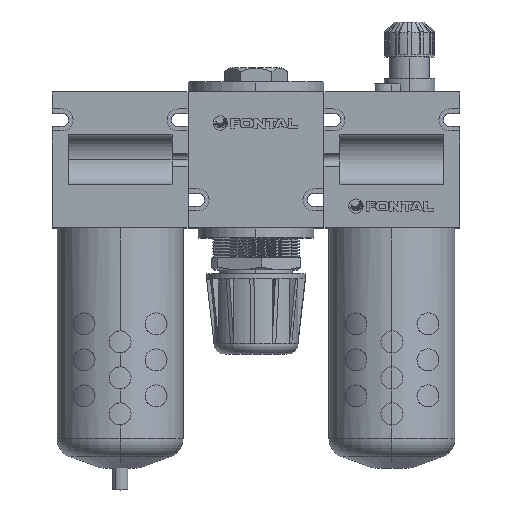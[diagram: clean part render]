
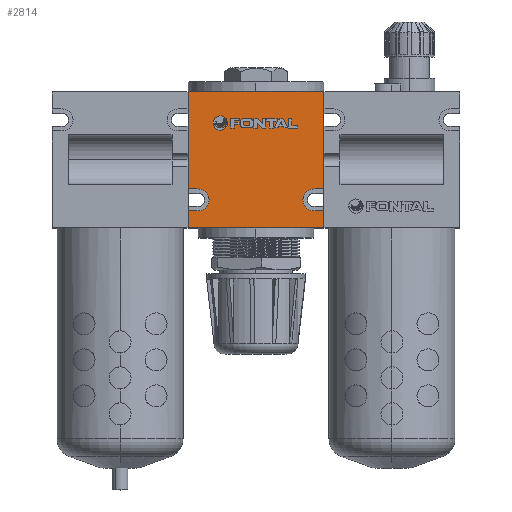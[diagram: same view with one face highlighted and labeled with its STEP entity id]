
A CAD part, top view. The second image highlights one B-rep face of the part: STEP entity #2814.
In plain terms, the highlighted planar face has unit normal (0, 0, 1).
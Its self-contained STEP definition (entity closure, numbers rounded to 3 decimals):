
#88 = ORIENTED_EDGE ( 'NONE', *, *, #14967, .T. ) ;
#507 = VERTEX_POINT ( 'NONE', #4409 ) ;
#519 = VECTOR ( 'NONE', #20340, 1000. ) ;
#663 = DIRECTION ( 'NONE',  ( 0., 1., 0. ) ) ;
#900 = LINE ( 'NONE', #3134, #13325 ) ;
#909 = ORIENTED_EDGE ( 'NONE', *, *, #11851, .T. ) ;
#948 = DIRECTION ( 'NONE',  ( -1., 0., 0. ) ) ;
#1154 = VECTOR ( 'NONE', #12652, 1000. ) ;
#1161 = PLANE ( 'NONE',  #4663 ) ;
#1171 = EDGE_LOOP ( 'NONE', ( #11737, #1233, #88, #10237, #7194, #909, #7923, #20391, #4206, #10630, #9822, #6437, #16655 ) ) ;
#1233 = ORIENTED_EDGE ( 'NONE', *, *, #4469, .T. ) ;
#1620 = CARTESIAN_POINT ( 'NONE',  ( -29., 14.5, 34. ) ) ;
#1667 = CARTESIAN_POINT ( 'NONE',  ( 34., -34., 34. ) ) ;
#1728 = EDGE_CURVE ( 'NONE', #507, #18339, #19220, .T. ) ;
#1884 = VECTOR ( 'NONE', #663, 1000. ) ;
#1986 = CARTESIAN_POINT ( 'NONE',  ( -34., 34., 34. ) ) ;
#2031 = EDGE_CURVE ( 'NONE', #5964, #2883, #14556, .T. ) ;
#2131 = VECTOR ( 'NONE', #19830, 1000. ) ;
#2272 = FACE_OUTER_BOUND ( 'NONE', #1171, .T. ) ;
#2413 = CIRCLE ( 'NONE', #5088, 5.5 ) ;
#2814 = ADVANCED_FACE ( 'NONE', ( #2272 ), #1161, .T. ) ;
#2865 = LINE ( 'NONE', #11879, #2131 ) ;
#2883 = VERTEX_POINT ( 'NONE', #20145 ) ;
#3111 = EDGE_CURVE ( 'NONE', #17106, #13910, #2413, .T. ) ;
#3134 = CARTESIAN_POINT ( 'NONE',  ( -29., 25.5, 34. ) ) ;
#3232 = CARTESIAN_POINT ( 'NONE',  ( 34., 25.5, 34. ) ) ;
#3308 = EDGE_CURVE ( 'NONE', #7217, #507, #9808, .T. ) ;
#3492 = CARTESIAN_POINT ( 'NONE',  ( -29., 20., 34. ) ) ;
#3522 = CIRCLE ( 'NONE', #4246, 5.5 ) ;
#3637 = CARTESIAN_POINT ( 'NONE',  ( 34., 34., 34. ) ) ;
#3712 = DIRECTION ( 'NONE',  ( 0., 0., 1. ) ) ;
#3868 = CARTESIAN_POINT ( 'NONE',  ( 34., 14.5, 34. ) ) ;
#4206 = ORIENTED_EDGE ( 'NONE', *, *, #3111, .F. ) ;
#4246 = AXIS2_PLACEMENT_3D ( 'NONE', #3492, #6463, #18943 ) ;
#4409 = CARTESIAN_POINT ( 'NONE',  ( -34., -34., 34. ) ) ;
#4469 = EDGE_CURVE ( 'NONE', #9105, #16849, #21503, .T. ) ;
#4622 = VECTOR ( 'NONE', #6408, 1000. ) ;
#4663 = AXIS2_PLACEMENT_3D ( 'NONE', #15048, #3712, #4836 ) ;
#4836 = DIRECTION ( 'NONE',  ( 1., 0., 0. ) ) ;
#5088 = AXIS2_PLACEMENT_3D ( 'NONE', #12610, #17086, #10687 ) ;
#5215 = CARTESIAN_POINT ( 'NONE',  ( 29., 14.5, 34. ) ) ;
#5500 = VECTOR ( 'NONE', #20338, 1000. ) ;
#5964 = VERTEX_POINT ( 'NONE', #3232 ) ;
#6165 = CARTESIAN_POINT ( 'NONE',  ( -34., 34., 34. ) ) ;
#6254 = VECTOR ( 'NONE', #17327, 1000. ) ;
#6408 = DIRECTION ( 'NONE',  ( 0., -1., 0. ) ) ;
#6437 = ORIENTED_EDGE ( 'NONE', *, *, #3308, .T. ) ;
#6463 = DIRECTION ( 'NONE',  ( 0., 0., 1. ) ) ;
#6468 = VERTEX_POINT ( 'NONE', #22568 ) ;
#7194 = ORIENTED_EDGE ( 'NONE', *, *, #2031, .T. ) ;
#7217 = VERTEX_POINT ( 'NONE', #16041 ) ;
#7923 = ORIENTED_EDGE ( 'NONE', *, *, #9971, .T. ) ;
#8041 = CIRCLE ( 'NONE', #10480, 5.5 ) ;
#9105 = VERTEX_POINT ( 'NONE', #3868 ) ;
#9808 = LINE ( 'NONE', #1986, #4622 ) ;
#9822 = ORIENTED_EDGE ( 'NONE', *, *, #15003, .F. ) ;
#9971 = EDGE_CURVE ( 'NONE', #16640, #22362, #15266, .T. ) ;
#10237 = ORIENTED_EDGE ( 'NONE', *, *, #22637, .T. ) ;
#10331 = LINE ( 'NONE', #22827, #1154 ) ;
#10480 = AXIS2_PLACEMENT_3D ( 'NONE', #19236, #12465, #12060 ) ;
#10630 = ORIENTED_EDGE ( 'NONE', *, *, #14199, .F. ) ;
#10687 = DIRECTION ( 'NONE',  ( 1., 0., 0. ) ) ;
#11323 = CARTESIAN_POINT ( 'NONE',  ( 34., 14.5, 34. ) ) ;
#11590 = CARTESIAN_POINT ( 'NONE',  ( -34., 25.5, 34. ) ) ;
#11737 = ORIENTED_EDGE ( 'NONE', *, *, #21881, .T. ) ;
#11851 = EDGE_CURVE ( 'NONE', #2883, #16640, #2865, .T. ) ;
#11879 = CARTESIAN_POINT ( 'NONE',  ( -34., 34., 34. ) ) ;
#12060 = DIRECTION ( 'NONE',  ( -1., 0., 0. ) ) ;
#12465 = DIRECTION ( 'NONE',  ( 0., 0., -1. ) ) ;
#12610 = CARTESIAN_POINT ( 'NONE',  ( -29., 20., 34. ) ) ;
#12652 = DIRECTION ( 'NONE',  ( 0., 1., 0. ) ) ;
#13325 = VECTOR ( 'NONE', #14033, 1000. ) ;
#13910 = VERTEX_POINT ( 'NONE', #22117 ) ;
#14033 = DIRECTION ( 'NONE',  ( -1., 0., 0. ) ) ;
#14199 = EDGE_CURVE ( 'NONE', #15986, #17106, #3522, .T. ) ;
#14314 = CARTESIAN_POINT ( 'NONE',  ( -34., 14.5, 34. ) ) ;
#14556 = LINE ( 'NONE', #3637, #1884 ) ;
#14584 = VECTOR ( 'NONE', #948, 1000. ) ;
#14967 = EDGE_CURVE ( 'NONE', #16849, #6468, #8041, .T. ) ;
#15003 = EDGE_CURVE ( 'NONE', #7217, #15986, #18474, .T. ) ;
#15048 = CARTESIAN_POINT ( 'NONE',  ( 0., 0., 34. ) ) ;
#15266 = LINE ( 'NONE', #6165, #16254 ) ;
#15986 = VERTEX_POINT ( 'NONE', #1620 ) ;
#16041 = CARTESIAN_POINT ( 'NONE',  ( -34., 14.5, 34. ) ) ;
#16166 = EDGE_CURVE ( 'NONE', #13910, #22362, #900, .T. ) ;
#16213 = CARTESIAN_POINT ( 'NONE',  ( -23.5, 20., 34. ) ) ;
#16254 = VECTOR ( 'NONE', #18283, 1000. ) ;
#16640 = VERTEX_POINT ( 'NONE', #22511 ) ;
#16655 = ORIENTED_EDGE ( 'NONE', *, *, #1728, .T. ) ;
#16849 = VERTEX_POINT ( 'NONE', #5215 ) ;
#17086 = DIRECTION ( 'NONE',  ( 0., 0., 1. ) ) ;
#17106 = VERTEX_POINT ( 'NONE', #16213 ) ;
#17317 = CARTESIAN_POINT ( 'NONE',  ( 29., 25.5, 34. ) ) ;
#17327 = DIRECTION ( 'NONE',  ( 1., 0., 0. ) ) ;
#18283 = DIRECTION ( 'NONE',  ( 0., -1., 0. ) ) ;
#18339 = VERTEX_POINT ( 'NONE', #1667 ) ;
#18474 = LINE ( 'NONE', #14314, #6254 ) ;
#18828 = LINE ( 'NONE', #17317, #519 ) ;
#18943 = DIRECTION ( 'NONE',  ( 1., 0., 0. ) ) ;
#19220 = LINE ( 'NONE', #21467, #5500 ) ;
#19236 = CARTESIAN_POINT ( 'NONE',  ( 29., 20., 34. ) ) ;
#19830 = DIRECTION ( 'NONE',  ( -1., 0., 0. ) ) ;
#20145 = CARTESIAN_POINT ( 'NONE',  ( 34., 34., 34. ) ) ;
#20338 = DIRECTION ( 'NONE',  ( 1., 0., 0. ) ) ;
#20340 = DIRECTION ( 'NONE',  ( 1., 0., 0. ) ) ;
#20391 = ORIENTED_EDGE ( 'NONE', *, *, #16166, .F. ) ;
#21467 = CARTESIAN_POINT ( 'NONE',  ( -34., -34., 34. ) ) ;
#21503 = LINE ( 'NONE', #11323, #14584 ) ;
#21881 = EDGE_CURVE ( 'NONE', #18339, #9105, #10331, .T. ) ;
#22117 = CARTESIAN_POINT ( 'NONE',  ( -29., 25.5, 34. ) ) ;
#22362 = VERTEX_POINT ( 'NONE', #11590 ) ;
#22511 = CARTESIAN_POINT ( 'NONE',  ( -34., 34., 34. ) ) ;
#22568 = CARTESIAN_POINT ( 'NONE',  ( 29., 25.5, 34. ) ) ;
#22637 = EDGE_CURVE ( 'NONE', #6468, #5964, #18828, .T. ) ;
#22827 = CARTESIAN_POINT ( 'NONE',  ( 34., 34., 34. ) ) ;
